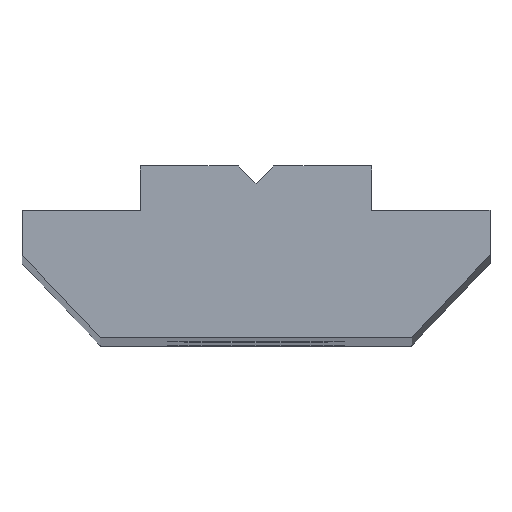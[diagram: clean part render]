
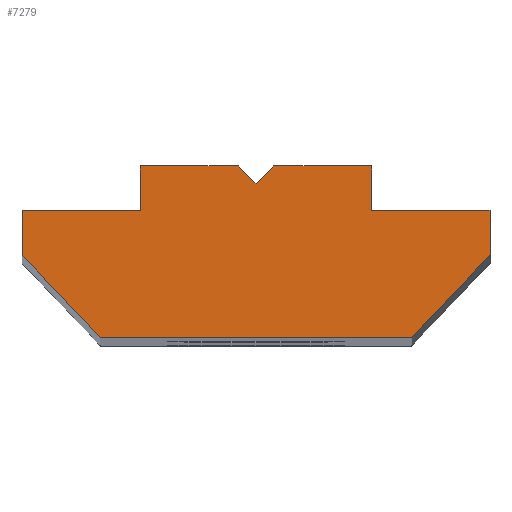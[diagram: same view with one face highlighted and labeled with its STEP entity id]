
A CAD part, top view. The second image highlights one B-rep face of the part: STEP entity #7279.
In plain terms, the highlighted planar face has unit normal (0, 0, 1).
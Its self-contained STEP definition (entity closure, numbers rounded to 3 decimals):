
#11 = DIRECTION ( 'NONE',  ( 0.687, 0.726, 0. ) ) ;
#24 = DIRECTION ( 'NONE',  ( -1., 0., 0. ) ) ;
#84 = DIRECTION ( 'NONE',  ( 0.707, 0.707, 0. ) ) ;
#193 = CARTESIAN_POINT ( 'NONE',  ( 3.9, 4.3, 80. ) ) ;
#266 = DIRECTION ( 'NONE',  ( 0., -1., 0. ) ) ;
#336 = CARTESIAN_POINT ( 'NONE',  ( 3.9, 4.3, 80. ) ) ;
#474 = VECTOR ( 'NONE', #84, 1000. ) ;
#520 = LINE ( 'NONE', #1789, #6045 ) ;
#578 = CARTESIAN_POINT ( 'NONE',  ( 7.9, 2.8, 80. ) ) ;
#714 = VERTEX_POINT ( 'NONE', #1972 ) ;
#775 = DIRECTION ( 'NONE',  ( -1., 0., 0. ) ) ;
#842 = CARTESIAN_POINT ( 'NONE',  ( -3.9, 5.8, 80. ) ) ;
#852 = CARTESIAN_POINT ( 'NONE',  ( 7.9, 4.3, 80. ) ) ;
#972 = LINE ( 'NONE', #6186, #4276 ) ;
#1006 = VECTOR ( 'NONE', #266, 1000. ) ;
#1011 = EDGE_CURVE ( 'NONE', #7289, #3543, #4507, .T. ) ;
#1032 = EDGE_CURVE ( 'NONE', #2401, #4949, #3211, .T. ) ;
#1209 = LINE ( 'NONE', #578, #1716 ) ;
#1211 = ORIENTED_EDGE ( 'NONE', *, *, #2564, .F. ) ;
#1213 = VERTEX_POINT ( 'NONE', #4547 ) ;
#1324 = DIRECTION ( 'NONE',  ( 0.687, -0.726, 0. ) ) ;
#1345 = CARTESIAN_POINT ( 'NONE',  ( -7.9, 2.8, 80. ) ) ;
#1379 = DIRECTION ( 'NONE',  ( 0.707, -0.707, 0. ) ) ;
#1419 = EDGE_CURVE ( 'NONE', #1213, #3494, #6051, .T. ) ;
#1434 = DIRECTION ( 'NONE',  ( -1., 0., 0. ) ) ;
#1571 = CARTESIAN_POINT ( 'NONE',  ( 3.9, 5.8, 80. ) ) ;
#1609 = EDGE_CURVE ( 'NONE', #4239, #7476, #6944, .T. ) ;
#1678 = ORIENTED_EDGE ( 'NONE', *, *, #2425, .T. ) ;
#1681 = CARTESIAN_POINT ( 'NONE',  ( -5.25, 0., 80. ) ) ;
#1716 = VECTOR ( 'NONE', #11, 1000. ) ;
#1740 = CARTESIAN_POINT ( 'NONE',  ( 0., 5.2, 80. ) ) ;
#1775 = CARTESIAN_POINT ( 'NONE',  ( 0., 5.2, 80. ) ) ;
#1789 = CARTESIAN_POINT ( 'NONE',  ( -3.9, 4.3, 80. ) ) ;
#1820 = EDGE_LOOP ( 'NONE', ( #5812, #5043, #1211, #5199, #6353, #6278, #2237, #3711, #7176, #4989, #5046, #2729, #1678 ) ) ;
#1871 = DIRECTION ( 'NONE',  ( -1., 0., 0. ) ) ;
#1913 = CARTESIAN_POINT ( 'NONE',  ( -0.6, 5.8, 80. ) ) ;
#1972 = CARTESIAN_POINT ( 'NONE',  ( -0.6, 5.8, 80. ) ) ;
#1987 = VERTEX_POINT ( 'NONE', #336 ) ;
#2045 = LINE ( 'NONE', #4328, #1006 ) ;
#2077 = VECTOR ( 'NONE', #6657, 1000. ) ;
#2212 = DIRECTION ( 'NONE',  ( 0., 1., 0. ) ) ;
#2237 = ORIENTED_EDGE ( 'NONE', *, *, #2523, .T. ) ;
#2292 = VERTEX_POINT ( 'NONE', #5336 ) ;
#2401 = VERTEX_POINT ( 'NONE', #4531 ) ;
#2425 = EDGE_CURVE ( 'NONE', #1987, #6689, #4742, .T. ) ;
#2523 = EDGE_CURVE ( 'NONE', #2292, #5233, #2045, .T. ) ;
#2564 = EDGE_CURVE ( 'NONE', #714, #4239, #4209, .T. ) ;
#2614 = DIRECTION ( 'NONE',  ( 1., 0., 0. ) ) ;
#2729 = ORIENTED_EDGE ( 'NONE', *, *, #3484, .T. ) ;
#3011 = LINE ( 'NONE', #5342, #6219 ) ;
#3211 = LINE ( 'NONE', #842, #5765 ) ;
#3484 = EDGE_CURVE ( 'NONE', #3494, #1987, #6635, .T. ) ;
#3494 = VERTEX_POINT ( 'NONE', #852 ) ;
#3543 = VERTEX_POINT ( 'NONE', #3995 ) ;
#3705 = VECTOR ( 'NONE', #2614, 1000. ) ;
#3711 = ORIENTED_EDGE ( 'NONE', *, *, #4982, .T. ) ;
#3777 = CARTESIAN_POINT ( 'NONE',  ( 0.6, 5.8, 80. ) ) ;
#3950 = CARTESIAN_POINT ( 'NONE',  ( -5.25, 0., 80. ) ) ;
#3995 = CARTESIAN_POINT ( 'NONE',  ( 5.25, 0., 80. ) ) ;
#4209 = LINE ( 'NONE', #1913, #6330 ) ;
#4239 = VERTEX_POINT ( 'NONE', #1775 ) ;
#4276 = VECTOR ( 'NONE', #1324, 1000. ) ;
#4302 = VECTOR ( 'NONE', #1434, 1000. ) ;
#4328 = CARTESIAN_POINT ( 'NONE',  ( -7.9, 4.3, 80. ) ) ;
#4507 = LINE ( 'NONE', #3950, #3705 ) ;
#4521 = VECTOR ( 'NONE', #775, 1000. ) ;
#4531 = CARTESIAN_POINT ( 'NONE',  ( -3.9, 5.8, 80. ) ) ;
#4547 = CARTESIAN_POINT ( 'NONE',  ( 7.9, 2.8, 80. ) ) ;
#4581 = CARTESIAN_POINT ( 'NONE',  ( 0., 0., 80. ) ) ;
#4742 = LINE ( 'NONE', #5103, #6104 ) ;
#4852 = LINE ( 'NONE', #5427, #4521 ) ;
#4949 = VERTEX_POINT ( 'NONE', #5706 ) ;
#4964 = EDGE_CURVE ( 'NONE', #3543, #1213, #1209, .T. ) ;
#4970 = DIRECTION ( 'NONE',  ( 0., -1., 0. ) ) ;
#4982 = EDGE_CURVE ( 'NONE', #5233, #7289, #972, .T. ) ;
#4989 = ORIENTED_EDGE ( 'NONE', *, *, #4964, .T. ) ;
#5043 = ORIENTED_EDGE ( 'NONE', *, *, #1609, .F. ) ;
#5046 = ORIENTED_EDGE ( 'NONE', *, *, #1419, .T. ) ;
#5050 = DIRECTION ( 'NONE',  ( 0., 0., -1. ) ) ;
#5103 = CARTESIAN_POINT ( 'NONE',  ( 3.9, 5.8, 80. ) ) ;
#5199 = ORIENTED_EDGE ( 'NONE', *, *, #5544, .T. ) ;
#5233 = VERTEX_POINT ( 'NONE', #1345 ) ;
#5336 = CARTESIAN_POINT ( 'NONE',  ( -7.9, 4.3, 80. ) ) ;
#5342 = CARTESIAN_POINT ( 'NONE',  ( 0.6, 5.8, 80. ) ) ;
#5427 = CARTESIAN_POINT ( 'NONE',  ( 0.6, 5.8, 80. ) ) ;
#5544 = EDGE_CURVE ( 'NONE', #714, #2401, #3011, .T. ) ;
#5687 = FACE_OUTER_BOUND ( 'NONE', #1820, .T. ) ;
#5706 = CARTESIAN_POINT ( 'NONE',  ( -3.9, 4.3, 80. ) ) ;
#5756 = PLANE ( 'NONE',  #6664 ) ;
#5765 = VECTOR ( 'NONE', #4970, 1000. ) ;
#5812 = ORIENTED_EDGE ( 'NONE', *, *, #6248, .T. ) ;
#6045 = VECTOR ( 'NONE', #24, 1000. ) ;
#6051 = LINE ( 'NONE', #6621, #2077 ) ;
#6104 = VECTOR ( 'NONE', #2212, 1000. ) ;
#6186 = CARTESIAN_POINT ( 'NONE',  ( -7.9, 2.8, 80. ) ) ;
#6219 = VECTOR ( 'NONE', #1871, 1000. ) ;
#6244 = DIRECTION ( 'NONE',  ( -1., 0., 0. ) ) ;
#6248 = EDGE_CURVE ( 'NONE', #6689, #7476, #4852, .T. ) ;
#6278 = ORIENTED_EDGE ( 'NONE', *, *, #6759, .T. ) ;
#6330 = VECTOR ( 'NONE', #1379, 1000. ) ;
#6353 = ORIENTED_EDGE ( 'NONE', *, *, #1032, .T. ) ;
#6621 = CARTESIAN_POINT ( 'NONE',  ( 7.9, 4.3, 80. ) ) ;
#6635 = LINE ( 'NONE', #193, #4302 ) ;
#6657 = DIRECTION ( 'NONE',  ( 0., 1., 0. ) ) ;
#6664 = AXIS2_PLACEMENT_3D ( 'NONE', #4581, #5050, #6244 ) ;
#6689 = VERTEX_POINT ( 'NONE', #1571 ) ;
#6759 = EDGE_CURVE ( 'NONE', #4949, #2292, #520, .T. ) ;
#6944 = LINE ( 'NONE', #1740, #474 ) ;
#7176 = ORIENTED_EDGE ( 'NONE', *, *, #1011, .T. ) ;
#7279 = ADVANCED_FACE ( 'NONE', ( #5687 ), #5756, .F. ) ;
#7289 = VERTEX_POINT ( 'NONE', #1681 ) ;
#7476 = VERTEX_POINT ( 'NONE', #3777 ) ;
